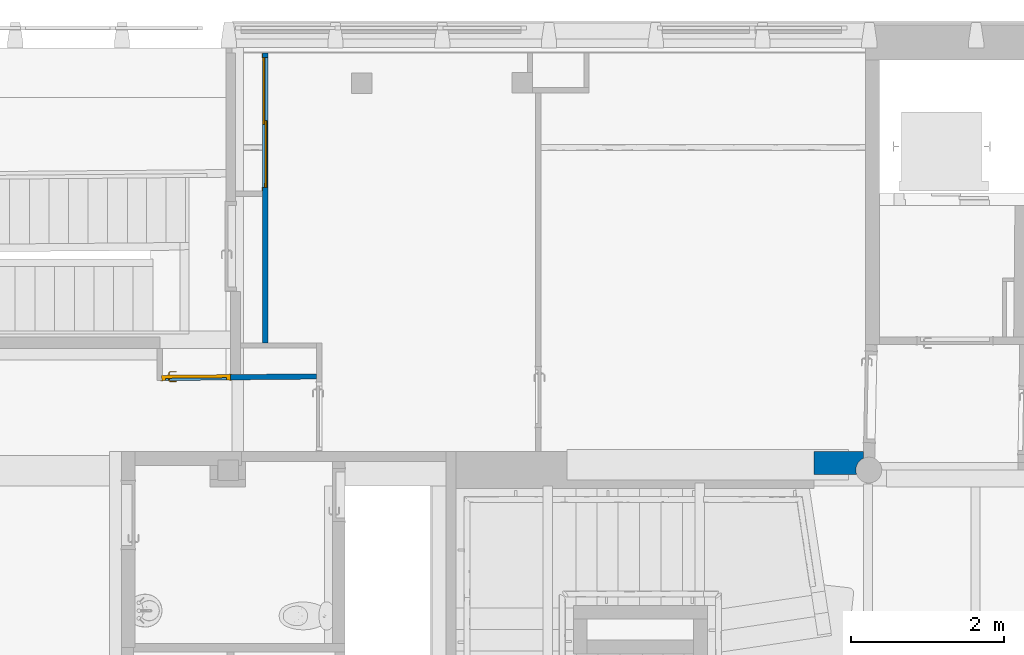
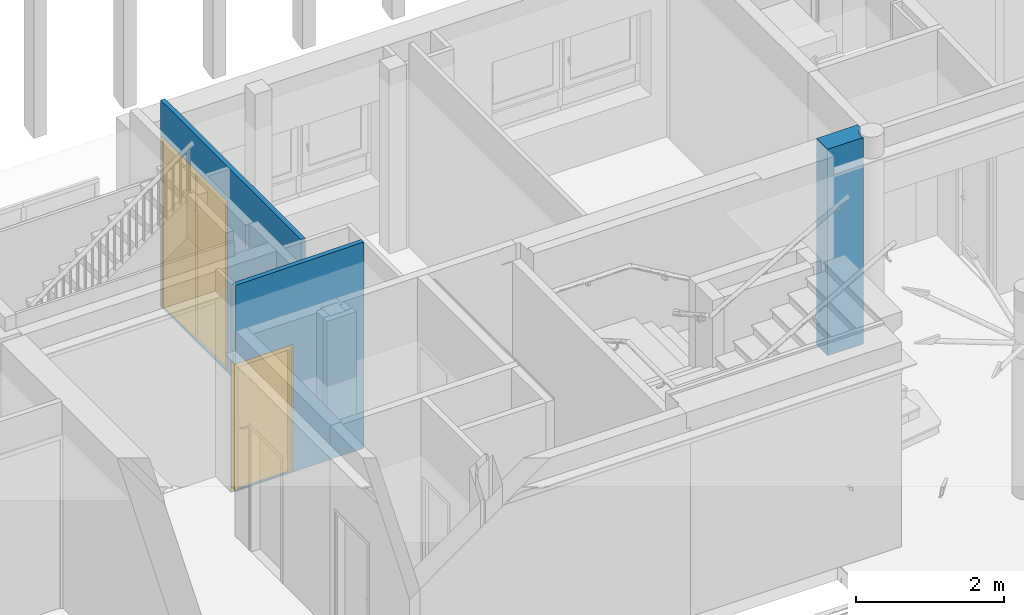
# One storey, part 21 of 65: 3 walls, 2 doors, 2 openings.
"""IFC4 building model written with IfcOpenShell, lengths in metres."""

from ifc_helpers import new_model, entity, si_unit, converted_unit, derived_unit, direction, frame, origin, place, context, subcontext, project, spatial, indexed_curve, outline, extrude, polygons, source, transform, mapped, material, material_list, layer, layer_set, constituent, constituent_set, type_object, type_shapes, element, fill, save


model = new_model("IFC4")

# Units and contexts
model_context = context("Model", 3, precision=1e-05, world=origin(), true_north=direction((6.12303176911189e-17, 1.0)))
body_context = subcontext(model_context, "Body", "Model", "MODEL_VIEW")
ifc_project = project(units=[si_unit("LENGTHUNIT", "METRE"), si_unit("AREAUNIT", "SQUARE_METRE"), si_unit("VOLUMEUNIT", "CUBIC_METRE"), converted_unit("PLANEANGLEUNIT", "DEGREE", entity("IfcRatioMeasure", 0.0174532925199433), si_unit("PLANEANGLEUNIT", "RADIAN"), dimensions=[0, 0, 0, 0, 0, 0, 0]), si_unit("MASSUNIT", "GRAM", prefix="KILO"), derived_unit("MASSDENSITYUNIT", [(si_unit("MASSUNIT", "GRAM", prefix="KILO"), 1), (si_unit("LENGTHUNIT", "METRE"), -3)]), derived_unit("MOMENTOFINERTIAUNIT", [(si_unit("LENGTHUNIT", "METRE"), 4)]), si_unit("TIMEUNIT", "SECOND"), si_unit("FREQUENCYUNIT", "HERTZ"), si_unit("THERMODYNAMICTEMPERATUREUNIT", "DEGREE_CELSIUS"), derived_unit("THERMALTRANSMITTANCEUNIT", [(si_unit("MASSUNIT", "GRAM", prefix="KILO"), 1), (si_unit("THERMODYNAMICTEMPERATUREUNIT", "KELVIN"), -1), (si_unit("TIMEUNIT", "SECOND"), -3)]), derived_unit("VOLUMETRICFLOWRATEUNIT", [(si_unit("LENGTHUNIT", "METRE"), 3), (si_unit("TIMEUNIT", "SECOND"), -1)]), si_unit("ELECTRICCURRENTUNIT", "AMPERE"), si_unit("ELECTRICVOLTAGEUNIT", "VOLT"), si_unit("POWERUNIT", "WATT"), si_unit("FORCEUNIT", "NEWTON", prefix="KILO"), si_unit("ILLUMINANCEUNIT", "LUX"), si_unit("LUMINOUSFLUXUNIT", "LUMEN"), si_unit("LUMINOUSINTENSITYUNIT", "CANDELA"), derived_unit("USERDEFINED", [(si_unit("MASSUNIT", "GRAM", prefix="KILO"), -1), (si_unit("LENGTHUNIT", "METRE"), -2), (si_unit("TIMEUNIT", "SECOND"), 3), (si_unit("LUMINOUSFLUXUNIT", "LUMEN"), 1)]), derived_unit("LINEARVELOCITYUNIT", [(si_unit("LENGTHUNIT", "METRE"), 1), (si_unit("TIMEUNIT", "SECOND"), -1)]), si_unit("PRESSUREUNIT", "PASCAL"), derived_unit("USERDEFINED", [(si_unit("LENGTHUNIT", "METRE"), -2), (si_unit("MASSUNIT", "GRAM", prefix="KILO"), 1), (si_unit("TIMEUNIT", "SECOND"), -2)]), derived_unit("LINEARFORCEUNIT", [(si_unit("MASSUNIT", "GRAM", prefix="KILO"), 1), (si_unit("LENGTHUNIT", "METRE"), 1), (si_unit("TIMEUNIT", "SECOND"), -2), (si_unit("LENGTHUNIT", "METRE"), -1)]), derived_unit("PLANARFORCEUNIT", [(si_unit("MASSUNIT", "GRAM", prefix="KILO"), 1), (si_unit("LENGTHUNIT", "METRE"), 1), (si_unit("TIMEUNIT", "SECOND"), -2), (si_unit("LENGTHUNIT", "METRE"), -2)])], contexts=[model_context])

# Site, building, storey
site_placement = place(None, origin())
site = spatial("IfcSite", under=ifc_project, at=site_placement, Name="Default", CompositionType="ELEMENT")
building_placement = place(site_placement, origin())
building = spatial("IfcBuilding", under=site, at=building_placement, Name="HOTEL CONSULAIRE BOULOGNE SUR MER", CompositionType="ELEMENT")
storey_placement = place(building_placement, origin())
storey = spatial("IfcBuildingStorey", under=building, at=storey_placement, Name="Niveau 0", CompositionType="ELEMENT", Elevation=1.31981936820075e-13)

# Wall, opening, door
ifc_material_1 = material(Name="Mur par défaut", Category="Divers")
ifc_layer_1 = layer(ifc_material_1, 0.07, Name="Mur par défaut", Category="Divers")
ifc_layer_set_1 = layer_set([ifc_layer_1], Name="Mur de base:Int. Plâtre 70 mm")
wall_type_1 = type_object("IfcWallType", Name="Mur de base:Int. Plâtre 70 mm", PredefinedType="NOTDEFINED", material=ifc_layer_set_1)
wall_1_placement = place(storey_placement, frame((-2.08835755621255, -14.4084916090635, -0.0200000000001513), z_axis=(0.0, 0.0, 1.0), x_axis=(0.999949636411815, 0.0100361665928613, 0.0)))
wall_1 = element("IfcWall", 1, at=wall_1_placement, inside=storey, type_object=wall_type_1, material=ifc_layer_set_1, Name="Mur de base:Int. Plâtre 70 mm", ObjectType="Mur de base:Int. Plâtre 70 mm", PredefinedType="NOTDEFINED", context=body_context, shape_type="Tessellation", body=[
    polygons([(0.000702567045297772, 0.0349999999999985, 2.095), (-1.35358391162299e-16, -0.0350000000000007, 2.095), (-1.35358391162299e-16, -0.0350000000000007, 3.40652697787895), (0.000702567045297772, 0.0349999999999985, 3.40652697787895), (-1.35358391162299e-16, -0.0350000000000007, -2.15727435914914e-16), (2.01748372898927, -0.0350000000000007, -2.15727435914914e-16), (2.01748372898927, -0.0350000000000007, 3.40652697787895), (0.889330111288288, -0.0350000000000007, 2.095), (0.889330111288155, -0.0349999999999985, 0.0199999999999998), (-1.35358391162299e-16, -0.0350000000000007, 0.0199999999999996), (2.01818629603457, 0.0349999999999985, -2.15727435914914e-16), (1.02033670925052, 0.0349999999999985, -2.15727435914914e-16), (0.890330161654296, 0.0349999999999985, -2.15727435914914e-16), (0.000702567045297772, 0.0349999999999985, -2.15727435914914e-16), (0.000702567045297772, 0.0349999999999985, 0.0199999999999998), (0.889330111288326, 0.0349999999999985, 0.0199999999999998), (0.889330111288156, 0.0350000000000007, 2.095), (2.01818629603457, 0.0349999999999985, 3.40652697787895)], [[[1, 2, 3, 4]], [[15, 14, 5, 10]], [[10, 5, 6, 7, 3, 2, 8, 9]], [[11, 12, 13, 14, 15, 16, 17, 1, 4, 18]], [[5, 14, 13, 12, 11, 6]], [[1, 17, 8, 2]], [[16, 9, 8, 17]], [[15, 10, 9, 16]], [[7, 18, 4, 3]], [[6, 11, 18, 7]]], closed=True),
])
opening_1_placement = place(wall_1_placement, frame((-0.0106698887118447, -0.035, 0.0200000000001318)))
opening_1 = element("IfcOpeningElement", 2, at=opening_1_placement, cuts=wall_1, Name="Int. Simple:PP (0.83m x 2.04m):1", ObjectType="Opening", PredefinedType="OPENING", context=body_context, shape_type="SweptSolid", body=[
    extrude(outline(indexed_curve([(0.0, 0.9), (0.0, 0.0), (2.075, 0.0), (2.075, 0.9), (0.0, 0.9)], self_intersect=False)), frame((0.0, 0.0, 0.0), z_axis=(0.0, 1.0, 0.0), x_axis=(0.0, 0.0, 1.0)), (0.0, 0.0, 1.0), 0.07),
])
ifc_material_2 = material(Name="Finition Peinture - Blanc satiné", Category="Peinture")
ifc_constituent_1 = constituent(ifc_material_2, Name="Finition Peinture - Blanc satiné", Category="Matériaux")
ifc_material_3 = material(Name="Bois - Panneau de porte", Category="Bois")
ifc_constituent_2 = constituent(ifc_material_3, Name="Bois - Panneau de porte", Category="Matériaux")
ifc_material_4 = material(Name="Bois - Cadre de porte", Category="Bois")
ifc_constituent_3 = constituent(ifc_material_4, Name="Bois - Cadre de porte", Category="Matériaux")
ifc_constituent_set_1 = constituent_set(constituents=[ifc_constituent_1, ifc_constituent_2, ifc_constituent_3], Name="MaterialConstituentSet")
ifc_material_list_1 = material_list([ifc_material_4, ifc_material_4, ifc_material_3, ifc_material_2])
door_type_1 = type_object("IfcDoorType", Name="Int. Simple:PP (0.83m x 2.04m)", OperationType="NOTDEFINED", PredefinedType="DOOR", material=ifc_material_list_1)
shared_shape_1 = source(origin(), body_context, "Body", "Tessellation", [
    polygons([(0.895000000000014, -0.00500000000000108, 0.870000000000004), (0.895000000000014, -0.00500000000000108, 1.08), (0.885352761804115, -0.00500000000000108, 1.08399601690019), (0.875000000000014, -0.00500000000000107, 1.08535898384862), (0.864647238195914, -0.00500000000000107, 1.08399601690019), (0.855000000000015, -0.00500000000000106, 1.08), (0.855000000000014, -0.00500000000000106, 0.870000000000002), (0.864647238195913, -0.00500000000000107, 0.866003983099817), (0.875000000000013, -0.00500000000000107, 0.86464101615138), (0.885352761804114, -0.00500000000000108, 0.866003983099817), (0.895000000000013, -1.07440722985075e-15, 0.870000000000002), (0.885352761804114, -1.07017728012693e-15, 0.866003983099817), (0.875000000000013, -1.06594733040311e-15, 0.86464101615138), (0.864647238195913, -1.06171738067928e-15, 0.866003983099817), (0.855000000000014, -1.05748743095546e-15, 0.870000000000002), (0.855000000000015, -1.05748743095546e-15, 1.08), (0.864647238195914, -1.06171738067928e-15, 1.08399601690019), (0.875000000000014, -1.06594733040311e-15, 1.08535898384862), (0.885352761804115, -1.07017728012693e-15, 1.08399601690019), (0.895000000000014, -1.07440722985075e-15, 1.08)], [[[1, 2, 3, 4, 5, 6, 7, 8, 9, 10]], [[20, 11, 12, 13, 14, 15, 16, 17, 18, 19]], [[10, 12, 11, 1]], [[9, 13, 12, 10]], [[8, 14, 13, 9]], [[8, 7, 15, 14]], [[15, 7, 6, 16]], [[5, 17, 16, 6]], [[4, 18, 17, 5]], [[3, 19, 18, 4]], [[3, 2, 20, 19]], [[11, 20, 2, 1]]], closed=True),
    polygons([(0.855000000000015, 0.0399999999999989, 1.08), (0.855000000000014, 0.0399999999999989, 0.870000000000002), (0.864647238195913, 0.0399999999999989, 0.866003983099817), (0.875000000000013, 0.0399999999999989, 0.86464101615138), (0.885352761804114, 0.0399999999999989, 0.866003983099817), (0.895000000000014, 0.0399999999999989, 0.870000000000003), (0.895000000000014, 0.0399999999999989, 1.08), (0.885352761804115, 0.0399999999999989, 1.08399601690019), (0.875000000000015, 0.0399999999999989, 1.08535898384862), (0.864647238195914, 0.0399999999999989, 1.08399601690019), (0.855000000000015, 0.0449999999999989, 1.08), (0.864647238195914, 0.0449999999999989, 1.08399601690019), (0.875000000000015, 0.0449999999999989, 1.08535898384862), (0.885352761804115, 0.0449999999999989, 1.08399601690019), (0.895000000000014, 0.0449999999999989, 1.08), (0.895000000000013, 0.0449999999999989, 0.870000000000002), (0.885352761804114, 0.0449999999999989, 0.866003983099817), (0.875000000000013, 0.0449999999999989, 0.86464101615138), (0.864647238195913, 0.0449999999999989, 0.866003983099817), (0.855000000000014, 0.0449999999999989, 0.870000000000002)], [[[6, 7, 8, 9, 10, 1, 2, 3, 4, 5]], [[13, 14, 15, 16, 17, 18, 19, 20, 11, 12]], [[10, 12, 11, 1]], [[9, 13, 12, 10]], [[8, 14, 13, 9]], [[8, 7, 15, 14]], [[16, 15, 7, 6]], [[5, 17, 16, 6]], [[4, 18, 17, 5]], [[3, 19, 18, 4]], [[3, 2, 20, 19]], [[20, 2, 1, 11]]], closed=True),
    polygons([(0.881000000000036, -0.00500000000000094, 1.00699999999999), (0.881000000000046, -0.00500000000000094, 0.992999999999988), (0.877025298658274, -0.00500000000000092, 0.99221955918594), (0.872974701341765, -0.00500000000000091, 0.992219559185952), (0.868999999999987, -0.00500000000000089, 0.993000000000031), (0.868999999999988, -0.00500000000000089, 1.007), (0.872974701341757, -0.00500000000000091, 1.00778044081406), (0.877025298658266, -0.00500000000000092, 1.00778044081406), (0.868999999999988, -0.0276803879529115, 1.007), (0.872974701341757, -0.0293267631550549, 1.00778044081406), (0.877025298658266, -0.0310045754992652, 1.00778044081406), (0.881000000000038, -0.0326509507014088, 1.007), (0.868999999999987, -0.0276803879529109, 0.993000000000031), (0.881000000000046, -0.0326509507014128, 0.992999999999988), (0.877025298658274, -0.0310045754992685, 0.99221955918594), (0.872974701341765, -0.0293267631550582, 0.992219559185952), (0.85765222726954, -0.0390281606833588, 1.007), (0.859298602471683, -0.0430028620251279, 1.00778044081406), (0.860976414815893, -0.0470534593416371, 1.00778044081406), (0.862622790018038, -0.051028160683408, 1.007), (0.857652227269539, -0.0390281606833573, 0.993000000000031), (0.862622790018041, -0.0510281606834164, 0.992999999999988), (0.860976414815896, -0.0470534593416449, 0.99221955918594), (0.859298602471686, -0.0430028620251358, 0.992219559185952), (0.774981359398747, -0.0510281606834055, 1.007), (0.774981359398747, -0.0470534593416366, 1.00778044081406), (0.774981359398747, -0.0430028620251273, 1.00778044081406), (0.774981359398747, -0.0390281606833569, 1.00699999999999), (0.774981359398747, -0.0390281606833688, 0.993000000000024), (0.774981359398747, -0.0430028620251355, 0.992219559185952), (0.774981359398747, -0.0470534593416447, 0.99221955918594), (0.774981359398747, -0.0510281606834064, 0.992999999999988), (0.822692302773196, -0.051028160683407, 1.007), (0.81713998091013, -0.045028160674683, 1.0078786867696), (0.816316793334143, -0.039028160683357, 1.007), (0.822692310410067, -0.0510281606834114, 0.992999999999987), (0.817139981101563, -0.0450281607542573, 0.992121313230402), (0.816316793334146, -0.039028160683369, 0.993000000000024)], [[[7, 8, 1, 2, 3, 4, 5, 6]], [[17, 21, 38, 29, 28, 35]], [[1, 8, 11, 12]], [[8, 7, 10, 18, 19, 11]], [[7, 6, 9, 10]], [[13, 9, 6, 5]], [[25, 26, 27, 28, 29, 30, 31, 32]], [[4, 16, 13, 5]], [[4, 3, 15, 23, 24, 16]], [[2, 14, 15, 3]], [[12, 14, 2, 1]], [[12, 11, 19, 20]], [[10, 9, 17, 18]], [[21, 17, 9, 13]], [[13, 16, 24, 21]], [[15, 14, 22, 23]], [[20, 22, 14, 12]], [[34, 26, 33]], [[33, 26, 25]], [[33, 20, 19]], [[18, 35, 34]], [[35, 18, 17]], [[28, 27, 35]], [[34, 27, 26]], [[34, 35, 27]], [[34, 33, 19]], [[18, 34, 19]], [[37, 30, 38]], [[31, 37, 36]], [[24, 38, 21]], [[30, 29, 38]], [[31, 36, 32]], [[36, 23, 22]], [[37, 23, 36]], [[37, 24, 23]], [[37, 38, 24]], [[30, 37, 31]], [[22, 20, 33, 25, 32, 36]]], closed=True),
    polygons([(0.868999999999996, 0.0449999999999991, 0.993000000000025), (0.872974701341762, 0.0449999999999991, 0.992219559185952), (0.877025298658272, 0.044999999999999, 0.99221955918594), (0.881000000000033, 0.044999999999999, 0.992999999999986), (0.881000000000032, 0.044999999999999, 1.007), (0.877025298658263, 0.044999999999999, 1.00778044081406), (0.872974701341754, 0.0449999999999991, 1.00778044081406), (0.868999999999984, 0.0449999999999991, 1.007), (0.868999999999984, 0.067485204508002, 1.007), (0.868999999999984, 0.0674852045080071, 0.993000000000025), (0.881000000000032, 0.0724557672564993, 1.007), (0.877025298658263, 0.070809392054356, 1.00778044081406), (0.872974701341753, 0.0691315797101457, 1.00778044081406), (0.881000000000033, 0.0724557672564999, 0.992999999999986), (0.872974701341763, 0.0691315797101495, 0.992219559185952), (0.877025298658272, 0.0708093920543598, 0.99221955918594), (0.857514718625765, 0.0789704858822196, 1.007), (0.857514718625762, 0.0789704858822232, 0.993000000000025), (0.862485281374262, 0.0909704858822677, 1.007), (0.860838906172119, 0.0869957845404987, 1.00778044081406), (0.859161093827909, 0.0829451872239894, 1.00778044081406), (0.862485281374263, 0.0909704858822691, 0.992999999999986), (0.859161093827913, 0.0829451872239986, 0.992219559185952), (0.860838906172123, 0.0869957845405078, 0.99221955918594), (0.77495421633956, 0.0789704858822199, 0.993000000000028), (0.77495421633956, 0.0789704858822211, 1.007), (0.77495421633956, 0.0829451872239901, 1.00778044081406), (0.77495421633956, 0.0869957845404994, 1.00778044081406), (0.77495421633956, 0.0909704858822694, 1.007), (0.77495421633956, 0.0909704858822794, 0.992999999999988), (0.77495421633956, 0.086995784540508, 0.99221955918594), (0.77495421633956, 0.0829451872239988, 0.992219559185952), (0.822554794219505, 0.0909704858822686, 1.007), (0.817057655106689, 0.0849704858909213, 1.0078786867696), (0.816234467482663, 0.0789704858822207, 1.007), (0.822554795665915, 0.0909704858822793, 0.992999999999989), (0.817057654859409, 0.0849704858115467, 0.992121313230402), (0.816234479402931, 0.0789704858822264, 0.993000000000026)], [[[2, 3, 4, 5, 6, 7, 8, 1]], [[18, 17, 35, 26, 25, 38]], [[9, 10, 1, 8]], [[27, 28, 29, 30, 31, 32, 25, 26]], [[7, 13, 9, 8]], [[7, 6, 12, 20, 21, 13]], [[5, 11, 12, 6]], [[11, 5, 4, 14]], [[4, 3, 16, 14]], [[3, 2, 15, 23, 24, 16]], [[2, 1, 10, 15]], [[17, 18, 10, 9]], [[9, 13, 21, 17]], [[11, 19, 20, 12]], [[22, 19, 11, 14]], [[14, 16, 24, 22]], [[15, 10, 18, 23]], [[34, 27, 35]], [[28, 34, 33]], [[21, 35, 17]], [[27, 26, 35]], [[28, 33, 29]], [[33, 20, 19]], [[34, 20, 33]], [[34, 21, 20]], [[34, 35, 21]], [[27, 34, 28]], [[19, 22, 36, 30, 29, 33]], [[37, 31, 36]], [[36, 31, 30]], [[36, 22, 24]], [[23, 38, 37]], [[38, 23, 18]], [[25, 32, 38]], [[37, 32, 31]], [[37, 38, 32]], [[37, 36, 24]], [[23, 37, 24]]], closed=True),
    polygons([(0.935000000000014, 0.04, 2.04), (0.935000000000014, 0.04, 0.0), (0.105000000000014, 0.04, 0.0), (0.105000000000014, 0.04, 2.04), (0.935000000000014, 2.53796983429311e-17, 2.04), (0.105000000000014, 2.53796983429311e-17, 2.04), (0.105000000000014, 2.53796983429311e-17, 0.0), (0.935000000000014, 2.53796983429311e-17, 0.0)], [[[3, 4, 1, 2]], [[5, 6, 7, 8]], [[5, 1, 4, 6]], [[6, 4, 3, 7]], [[8, 7, 3, 2]], [[8, 2, 1, 5]]], closed=True),
    polygons([(0.970000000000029, -4.22994972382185e-18, 0.0), (0.935000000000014, -4.22994972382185e-18, 0.0), (0.935000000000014, 0.04, 0.0), (0.920000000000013, 0.04, 0.0), (0.920000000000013, 0.0699999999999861, 0.0), (0.970000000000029, 0.0699999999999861, 0.0), (0.970000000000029, 0.0699999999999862, 2.07500000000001), (0.970000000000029, -4.22994972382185e-18, 2.07500000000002), (0.920000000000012, 0.0699999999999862, 2.025), (0.120000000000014, 0.0699999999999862, 2.025), (0.120000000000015, 0.0699999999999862, -4.08259727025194e-24), (0.0699999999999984, 0.0699999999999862, 5.8808818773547e-24), (0.0699999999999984, 0.0699999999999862, 2.07500000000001), (0.920000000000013, 0.04, 2.025), (0.935000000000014, 0.04, 2.04), (0.105000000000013, 0.04, 2.04), (0.105000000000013, 0.04, -2.52000145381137e-24), (0.120000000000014, 0.04, 1.99209647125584e-25), (0.120000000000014, 0.04, 2.025), (0.935000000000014, -4.22994972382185e-18, 2.04), (0.0699999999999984, -4.22994972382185e-18, 2.07500000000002), (0.0699999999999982, -4.22994972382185e-18, -3.95490699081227e-25), (0.105000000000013, -4.22994972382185e-18, -1.26556696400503e-24), (0.105000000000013, -4.22994972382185e-18, 2.04)], [[[4, 5, 6, 1, 2, 3]], [[17, 23, 22, 12, 11, 18]], [[19, 10, 9, 14]], [[24, 16, 15, 20]], [[7, 8, 1, 6]], [[11, 10, 19, 18]], [[23, 17, 16, 24]], [[9, 10, 11, 12, 13, 7, 6, 5]], [[9, 5, 4, 14]], [[15, 3, 2, 20]], [[12, 22, 21, 13]], [[19, 14, 4, 3, 15, 16, 17, 18]], [[24, 20, 2, 1, 8, 21, 22, 23]], [[13, 21, 8, 7]]], closed=True),
    polygons([(0.955000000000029, 0.0699999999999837, 1.35358391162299e-16), (0.955000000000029, 0.0749999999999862, 1.35358391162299e-16), (0.985000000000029, 0.0749999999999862, 1.35358391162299e-16), (0.985000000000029, 0.0699999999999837, 1.35358391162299e-16), (0.985000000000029, 0.0699999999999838, 2.09000000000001), (0.0550000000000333, 0.0699999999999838, 2.09000000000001), (0.0550000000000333, 0.0699999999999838, -4.03399441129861e-24), (0.0850000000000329, 0.0699999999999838, 4.03399441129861e-24), (0.0850000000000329, 0.0699999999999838, 2.06000000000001), (0.955000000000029, 0.0699999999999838, 2.06000000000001), (0.985000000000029, 0.0749999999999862, 2.09000000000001), (0.955000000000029, 0.0749999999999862, 2.06000000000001), (0.0850000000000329, 0.0749999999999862, 2.06000000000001), (0.0850000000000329, 0.0749999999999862, 0.0), (0.0550000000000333, 0.0749999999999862, -4.03399441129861e-24), (0.0550000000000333, 0.0749999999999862, 2.09000000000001)], [[[2, 3, 4, 1]], [[7, 15, 14, 8]], [[13, 12, 10, 9]], [[9, 10, 1, 4, 5, 6, 7, 8]], [[11, 5, 4, 3]], [[8, 14, 13, 9]], [[12, 13, 14, 15, 16, 11, 3, 2]], [[10, 12, 2, 1]], [[15, 7, 6, 16]], [[16, 6, 5, 11]]], closed=True),
    polygons([(0.955000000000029, -0.005, 1.35358391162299e-16), (0.955000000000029, -8.33300095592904e-16, 1.35358391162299e-16), (0.985000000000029, -8.33300095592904e-16, 1.35358391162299e-16), (0.985000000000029, -0.005, 1.35358391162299e-16), (0.0850000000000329, -0.005, -1.35358391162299e-16), (0.0550000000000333, -0.005, -1.35358391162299e-16), (0.0550000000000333, -8.33300095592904e-16, -1.35358391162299e-16), (0.0850000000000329, -8.33300095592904e-16, -1.35358391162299e-16), (0.985000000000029, -0.005, 2.09000000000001), (0.0550000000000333, -0.005, 2.09000000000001), (0.0850000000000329, -0.005, 2.06000000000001), (0.955000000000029, -0.005, 2.06000000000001), (0.985000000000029, -8.33300095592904e-16, 2.09000000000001), (0.955000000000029, -8.33300095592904e-16, 2.06000000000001), (0.0850000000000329, -8.33300095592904e-16, 2.06000000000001), (0.0550000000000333, -8.33300095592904e-16, 2.09000000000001)], [[[2, 3, 4, 1]], [[6, 7, 8, 5]], [[15, 14, 12, 11]], [[11, 12, 1, 4, 9, 10, 6, 5]], [[9, 4, 3, 13]], [[5, 8, 15, 11]], [[14, 15, 8, 7, 16, 13, 3, 2]], [[12, 14, 2, 1]], [[6, 10, 16, 7]], [[10, 9, 13, 16]]], closed=True),
])
type_shapes(door_type_1, [shared_shape_1])
door_1_placement = place(opening_1_placement, frame((0.970000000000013, 0.0699999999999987, 0.0), z_axis=(0.0, 0.0, 1.0), x_axis=(-1.0, 0.0, 0.0)))
door_1 = element("IfcDoor", 3, at=door_1_placement, inside=storey, type_object=door_type_1, material=ifc_constituent_set_1, Name="Int. Simple:PP (0.83m x 2.04m)", ObjectType="Int. Simple:PP (0.83m x 2.04m)", OperationType="NOTDEFINED", OverallHeight=2.075, OverallWidth=0.9, PredefinedType="DOOR", context=body_context, shape_type="MappedRepresentation", body=[
    mapped(shared_shape_1, transform((0.0, 0.0, 0.0), scale=1.0)),
])
fill(opening_1, door_1)

wall_2_placement = place(storey_placement, frame((-0.74381570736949, -13.9478473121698, -0.0200000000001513), z_axis=(0.0, 0.0, 1.0), x_axis=(0.0, 1.0, 0.0)))
wall_2 = element("IfcWall", 4, at=wall_2_placement, inside=storey, type_object=wall_type_1, material=ifc_layer_set_1, Name="Mur de base:Int. Plâtre 70 mm", ObjectType="Mur de base:Int. Plâtre 70 mm", PredefinedType="NOTDEFINED", context=body_context, shape_type="Tessellation", body=[
    polygons([(0.0, -0.0349999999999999, -2.15727435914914e-16), (3.79752314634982, -0.0349999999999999, -2.15727435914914e-16), (3.79752314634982, -0.0349999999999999, 3.40652697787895), (0.0, -0.0349999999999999, 3.40652697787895), (3.73877367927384, -0.0349999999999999, 2.77999999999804), (3.73877367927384, -0.0349999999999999, 0.0299999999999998), (2.03877367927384, -0.0349999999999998, 0.0299999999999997), (2.03877367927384, -0.0349999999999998, 2.77999999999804), (3.79752314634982, 0.035, -2.15727435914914e-16), (1.99077367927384, 0.035, -2.15727435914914e-16), (1.92077367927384, 0.035, -2.15727435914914e-16), (0.0, 0.035, -2.15727435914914e-16), (0.0, 0.035, 3.40652697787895), (3.79752314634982, 0.035, 3.40652697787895), (3.73877367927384, 0.035, 0.0299999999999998), (3.73877367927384, 0.035, 2.77999999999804), (2.03877367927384, 0.0350000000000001, 2.77999999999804), (2.03877367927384, 0.0350000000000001, 0.0299999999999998)], [[[1, 2, 3, 4], [8, 5, 6, 7]], [[9, 10, 11, 12, 13, 14], [16, 17, 18, 15]], [[2, 1, 12, 11, 10, 9]], [[16, 5, 8, 17]], [[12, 1, 4, 13]], [[15, 6, 5, 16]], [[17, 8, 7, 18]], [[2, 9, 14, 3]], [[18, 7, 6, 15]], [[4, 3, 14, 13]]], closed=True),
])
opening_2_placement = place(wall_2_placement, frame((2.03877367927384, -0.0349999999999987, 0.0300000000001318)))
opening_2 = element("IfcOpeningElement", 5, at=opening_2_placement, cuts=wall_2, Name="Placard coulissante - 2 panneaux:1.65x2.75:1", ObjectType="Opening", PredefinedType="OPENING", context=body_context, shape_type="SweptSolid", body=[
    extrude(outline(indexed_curve([(0.0, 1.7), (0.0, -7.27267603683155e-32), (2.74999999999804, -7.27267603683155e-32), (2.74999999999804, 1.7), (0.0, 1.7)], self_intersect=False)), frame((0.0, 0.0, 0.0), z_axis=(0.0, 1.0, 0.0), x_axis=(0.0, 0.0, 1.0)), (0.0, 0.0, 1.0), 0.07),
])
ifc_material_5 = material(Name="Placard - Profil", Category="Divers")
ifc_constituent_4 = constituent(ifc_material_5, Name="Placard - Profil", Category="Matériaux")
ifc_material_6 = material(Name="Placard - Encadrement", Category="Divers")
ifc_constituent_5 = constituent(ifc_material_6, Name="Placard - Encadrement", Category="Matériaux")
ifc_material_7 = material(Name="Placard - Porte", Category="Divers")
ifc_constituent_6 = constituent(ifc_material_7, Name="Placard - Porte", Category="Matériaux")
ifc_constituent_set_2 = constituent_set(constituents=[ifc_constituent_4, ifc_constituent_5, ifc_constituent_6], Name="MaterialConstituentSet")
ifc_material_list_2 = material_list([ifc_material_7, ifc_material_5, ifc_material_6])
door_type_2 = type_object("IfcDoorType", Name="Placard coulissante - 2 panneaux:1.65x2.75", OperationType="SLIDING_TO_LEFT", PredefinedType="DOOR", material=ifc_material_list_2)
shared_shape_2 = source(origin(), body_context, "Body", "SweptSolid", [
    extrude(outline(indexed_curve([(-0.00100000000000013, -0.0249999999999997), (0.00100000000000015, -0.0249999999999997), (0.00152388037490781, -0.0200162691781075), (0.00193163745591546, -0.0150216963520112), (0.00222305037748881, -0.0100189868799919), (0.00239796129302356, -0.00501085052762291), (0.0024562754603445, 2.70716782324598e-16), (0.00239796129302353, 0.00501085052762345), (0.00222305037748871, 0.0100189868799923), (0.00193163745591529, 0.0150216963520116), (0.0015238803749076, 0.020016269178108), (0.000999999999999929, 0.0250000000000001), (-0.00100000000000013, 0.0250000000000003), (-0.00100000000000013, -0.0249999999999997)], self_intersect=False)), frame((0.0250000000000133, 0.00899999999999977, 0.0), z_axis=(0.0, 0.0, 1.0), x_axis=(0.0, -1.0, 0.0)), (0.0, 0.0, 1.0), 2.1),
    extrude(outline(indexed_curve([(-0.00100000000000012, -0.0249999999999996), (0.00100000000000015, -0.0249999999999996), (0.0015238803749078, -0.0200162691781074), (0.00193163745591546, -0.0150216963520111), (0.00222305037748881, -0.0100189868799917), (0.00239796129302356, -0.00501085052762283), (0.0024562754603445, 3.3434689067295e-16), (0.00239796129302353, 0.0050108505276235), (0.00222305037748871, 0.0100189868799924), (0.00193163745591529, 0.0150216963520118), (0.0015238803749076, 0.0200162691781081), (0.000999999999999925, 0.0250000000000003), (-0.00100000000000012, 0.0250000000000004), (-0.00100000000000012, -0.0249999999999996)], self_intersect=False)), frame((0.850000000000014, 0.00900000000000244, 0.0), z_axis=(0.0, 0.0, 1.0), x_axis=(0.0, -1.0, 0.0)), (0.0, 0.0, 1.0), 2.1),
    extrude(outline(indexed_curve([(-0.00100000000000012, -0.0249999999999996), (0.00100000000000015, -0.0249999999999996), (0.0015238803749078, -0.0200162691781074), (0.00193163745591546, -0.0150216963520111), (0.00222305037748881, -0.0100189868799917), (0.00239796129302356, -0.00501085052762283), (0.0024562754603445, 3.3434689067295e-16), (0.00239796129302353, 0.0050108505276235), (0.00222305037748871, 0.0100189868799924), (0.00193163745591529, 0.0150216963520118), (0.0015238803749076, 0.0200162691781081), (0.000999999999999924, 0.0250000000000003), (-0.00100000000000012, 0.0250000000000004), (-0.00100000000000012, -0.0249999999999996)], self_intersect=False)), frame((0.850000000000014, 0.0340000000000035, 0.0), z_axis=(0.0, 0.0, 1.0), x_axis=(0.0, -1.0, 0.0)), (0.0, 0.0, 1.0), 2.1),
    extrude(outline(indexed_curve([(-0.00100000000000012, -0.0249999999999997), (0.00100000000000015, -0.0249999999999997), (0.0015238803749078, -0.0200162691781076), (0.00193163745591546, -0.0150216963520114), (0.00222305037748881, -0.010018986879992), (0.00239796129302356, -0.00501085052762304), (0.0024562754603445, 1.35358391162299e-16), (0.00239796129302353, 0.00501085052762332), (0.00222305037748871, 0.0100189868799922), (0.00193163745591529, 0.0150216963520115), (0.0015238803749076, 0.0200162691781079), (0.000999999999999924, 0.025), (-0.00100000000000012, 0.0250000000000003), (-0.00100000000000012, -0.0249999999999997)], self_intersect=False)), frame((1.67500000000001, 0.0340000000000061, 0.0), z_axis=(0.0, 0.0, 1.0), x_axis=(0.0, -1.0, 0.0)), (0.0, 0.0, 1.0), 2.1),
    extrude(outline(indexed_curve([(0.847999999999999, -1.38649999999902), (0.897999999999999, -1.38649999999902), (0.897999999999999, 1.41149999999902), (-0.897999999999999, 1.41149999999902), (-0.898, -1.38649999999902), (-0.848, -1.38649999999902), (-0.848, 1.36149999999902), (0.847999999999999, 1.36149999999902), (0.847999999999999, -1.38649999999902)], self_intersect=False)), frame((0.850000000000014, 0.0, 1.38649999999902), z_axis=(0.0, -1.0, 0.0), x_axis=(1.0, 0.0, 0.0)), (0.0, 0.0, 1.0), 0.00300000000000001),
    extrude(outline(indexed_curve([(-0.437500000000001, -0.0100000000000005), (0.437500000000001, -0.0100000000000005), (0.437500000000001, 0.0100000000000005), (-0.437500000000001, 0.0100000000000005), (-0.437500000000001, -0.0100000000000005)], self_intersect=False)), frame((0.437500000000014, 0.0200000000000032, 0.0)), (0.0, 0.0, 1.0), 2.75),
    extrude(outline(indexed_curve([(-0.4375, -0.01), (0.4375, -0.01), (0.4375, 0.01), (-0.4375, 0.01), (-0.4375, -0.01)], self_intersect=False)), frame((1.26250000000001, 0.0450000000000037, 0.0)), (0.0, 0.0, 1.0), 2.75),
])
type_shapes(door_type_2, [shared_shape_2])
door_2_placement = place(opening_2_placement, frame((1.70000000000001, 0.0699999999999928, 0.0), z_axis=(0.0, 0.0, 1.0), x_axis=(-1.0, 0.0, 0.0)))
door_2 = element("IfcDoor", 6, at=door_2_placement, inside=storey, type_object=door_type_2, material=ifc_constituent_set_2, Name="Placard coulissante - 2 panneaux:1.65x2.75", ObjectType="Placard coulissante - 2 panneaux:1.65x2.75", OperationType="SLIDING_TO_LEFT", OverallHeight=2.74999999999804, OverallWidth=1.7, PredefinedType="DOOR", context=body_context, shape_type="MappedRepresentation", body=[
    mapped(shared_shape_2, transform((0.0, 0.0, 0.0), scale=1.0)),
])
fill(opening_2, door_2)

# Wall
ifc_layer_2 = layer(ifc_material_1, 0.3, Name="Mur par défaut", Category="Divers")
ifc_layer_set_2 = layer_set([ifc_layer_2], Name="Mur de base:Générique - Int. 300 mm")
wall_type_2 = type_object("IfcWallType", Name="Mur de base:Générique - Int. 300 mm", PredefinedType="NOTDEFINED", material=ifc_layer_set_2)
wall_3_placement = place(storey_placement, frame((7.0999627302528, -15.5252420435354, -0.0200000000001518), z_axis=(0.0, 0.0, 1.0), x_axis=(-1.0, 0.0, 0.0)))
element("IfcWall", 7, at=wall_3_placement, inside=storey, type_object=wall_type_2, material=ifc_layer_set_2, Name="Mur de base:Générique - Int. 300 mm", ObjectType="Mur de base:Générique - Int. 300 mm", PredefinedType="NOTDEFINED", context=body_context, shape_type="SweptSolid", body=[
    extrude(outline(indexed_curve([(-0.154634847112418, -0.401037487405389), (0.145365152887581, -0.401037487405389), (0.145365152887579, 0.159590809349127), (0.139648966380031, 0.157577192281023), (0.133864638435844, 0.155768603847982), (0.128019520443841, 0.154167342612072), (0.122121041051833, 0.152775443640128), (0.116176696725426, 0.151594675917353), (0.110194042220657, 0.150626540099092), (0.104180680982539, 0.149872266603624), (0.0981442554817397, 0.149332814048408), (0.0920924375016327, 0.149008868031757), (0.0860329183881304, 0.148900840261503), (0.066915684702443, 0.149979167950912), (0.0480409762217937, 0.153200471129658), (0.0296482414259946, 0.158523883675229), (0.0119708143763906, 0.165881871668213), (-0.00476704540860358, 0.175181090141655), (-0.0203529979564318, 0.186303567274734), (-0.0345893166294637, 0.199108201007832), (-0.0472953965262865, 0.213432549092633), (-0.0583100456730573, 0.229094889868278), (-0.067493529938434, 0.245896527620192), (-0.15463484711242, 0.247686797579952), (-0.154634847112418, -0.401037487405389)], self_intersect=False)), frame((0.247686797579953, 0.00463484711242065, 0.0), z_axis=(0.0, 0.0, 1.0), x_axis=(0.0, 1.0, 0.0)), (0.0, 0.0, 1.0), 3.41112697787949),
])

save(model, "model.ifc")
